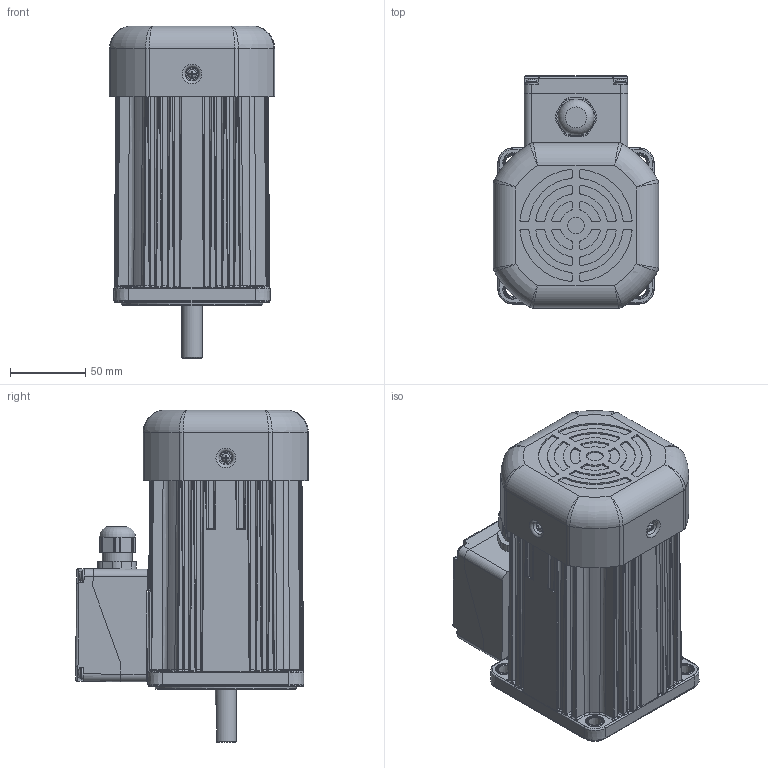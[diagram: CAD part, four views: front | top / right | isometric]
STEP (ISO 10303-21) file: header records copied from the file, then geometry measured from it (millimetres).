
FILE_DESCRIPTION (( 'STEP AP214' ), '1' );
FILE_NAME ('10IDD¤±-300F-T.STEP', '2025-01-13T02:41:44', ( '' ), ( '' ), 'SwSTEP 2.0', 'SolidWorks 2024', '' );
FILE_SCHEMA (( 'AUTOMOTIVE_DESIGN' ));
Length unit declared in the file: millimetre
Products named in the file (3): 10IDDE-250F; 10IDDㅁ-300F-T; TB8090
Assembly tree (2 placements, depth 2):
  10IDDㅁ-300F-T
    10IDDE-250F
    TB8090
Bounding box: 110 x 154.94 x 221 mm (x, y, z)
Volume: 1960509.9 mm3; surface area: 146104.9 mm2
Topology: 4 solids, 4 shells, 906 faces, 2315 edges, 1428 vertices
Faces by surface type: plane 389, cylinder 261, bspline 158, cone 79, torus 13, sphere 6
Full cylindrical faces by diameter (mm): 5.8 x4, 6.7 x4, 8 x4, 11 x1, 14 x1, 18 x1, 20 x1, 43 x1, 94 x1
Entity records: 48736 total; most frequent: CARTESIAN_POINT 28593, ORIENTED_EDGE 4396, DIRECTION 3731, EDGE_CURVE 2198, VERTEX_POINT 1408, AXIS2_PLACEMENT_3D 1306, LINE 1119, VECTOR 1119
